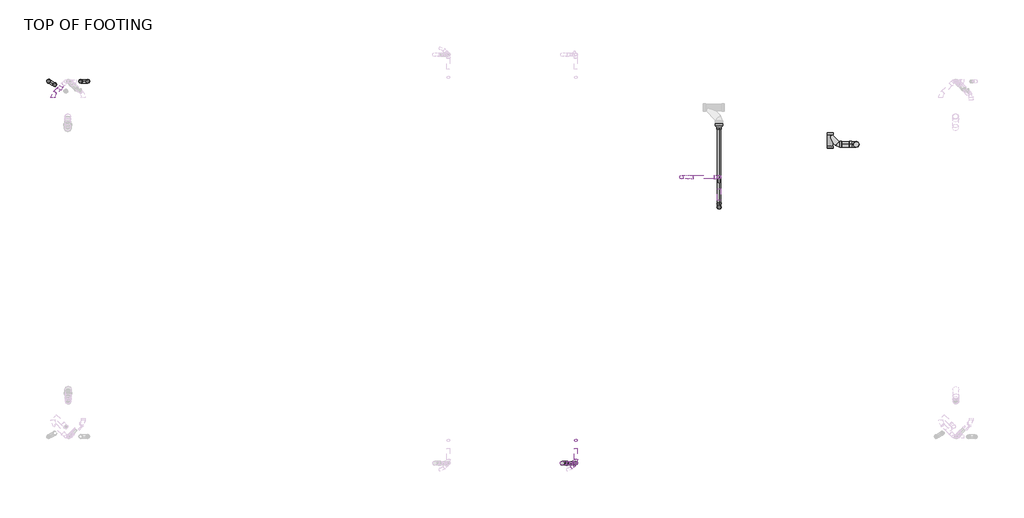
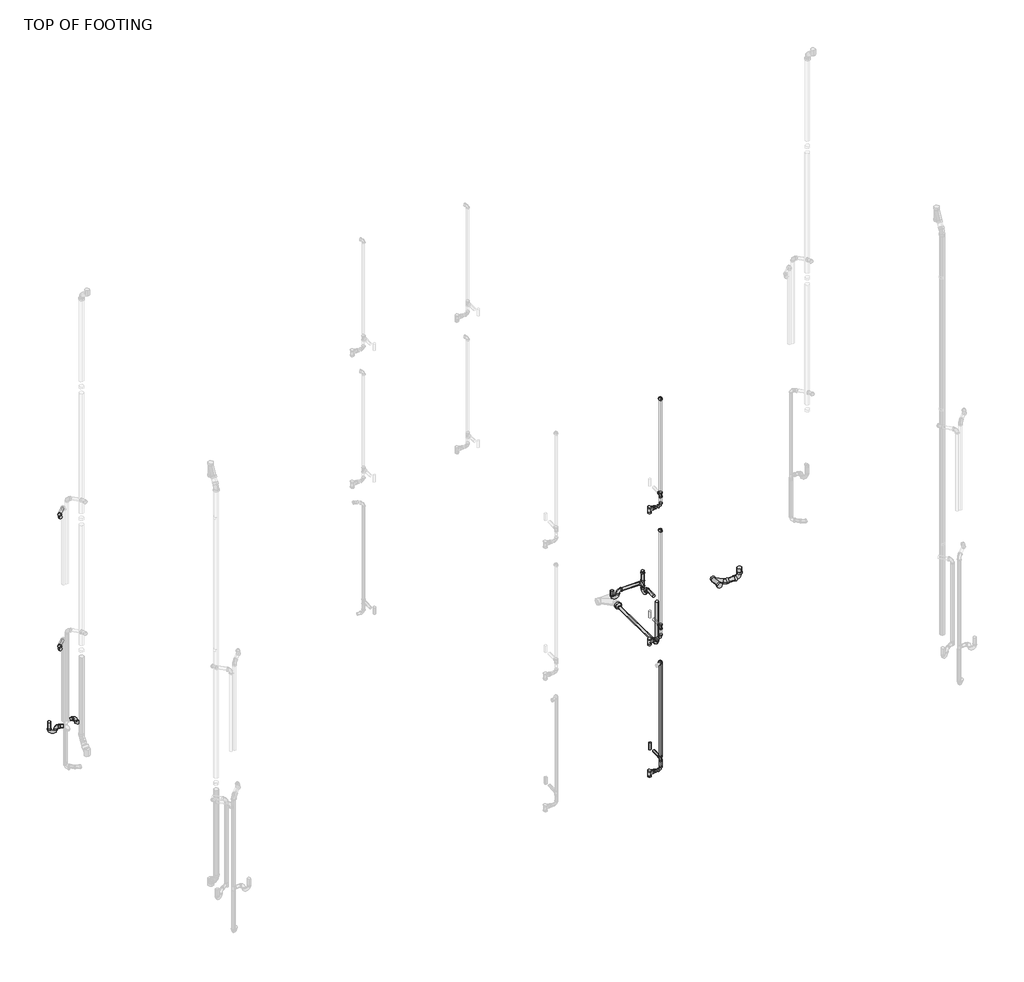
# One storey, part 4 of 8: 28 pipe segments, 27 pipe fittings.
"""IFC4 building model written with IfcOpenShell, lengths in millimetres."""

from ifc_helpers import new_model, si_unit, point, frame, frame_2d, origin, place, context, project, spatial, circle_curve, trimmed, segment, composite_curve, outline, extrude, transform, mapped, element, save
from components import bend_pvc_sch_40_dwv_standard_35af41d9, bend_pvc_sch_40_dwv_standard_e4da6302, bend_pvc_sch_40_dwv_standard_e287c2f6, bend_pvc_sch_40_dwv_standard_97be7f04, bend_pvc_sch_40_dwv_standard_f64d1520, reducer_pvc_sch_40_dwv_standard_b23fa098, reducer_pvc_sch_40_dwv_standard_30c8b44d, standard_73d07651, standard_8c31f35f, tee_sanitary_pvc_sch_40_dwv_standard_7b7ecc20, tee_sanitary_pvc_sch_40_dwv_standard_3578d342, tee_sanitary_pvc_sch_40_dwv_standard_32d7fc6d, wye_combination_with_8th_bend_pvc_sch_40_dwv_standard_399af0eb

model = new_model("IFC4")

# Units and contexts
model_context = context("Model", 3, world=origin())
ifc_project = project(units=[si_unit("LENGTHUNIT", "METRE", prefix="MILLI")], contexts=[model_context])

# Site, building, storey
site = spatial("IfcSite", under=ifc_project)
building = spatial("IfcBuilding", under=site)
storey = spatial("IfcBuildingStorey", under=building, Name="TOP OF FOOTING", Elevation=-762.0)

# Pipe fittings
placement = place(None, origin())
bend_pvc_sch_40_dwv_standard_shape = bend_pvc_sch_40_dwv_standard_35af41d9(model_context)
element("IfcPipeFitting", 1, ObjectType="Bend - PVC - Sch 40 - DWV : Standard", at=placement, inside=storey, context=model_context, shape_type="MappedRepresentation", body=[
    mapped(bend_pvc_sch_40_dwv_standard_shape, transform((10595.8959875, 2089.7012881, 337.3617935), x_axis=(0.0, 0.0, -1.0), y_axis=(1.0, 0.0, 0.0), z_axis=(0.0, -1.0, 0.0))),
])
element("IfcPipeFitting", 2, ObjectType="Bend - PVC - Sch 40 - DWV : Standard", at=placement, inside=storey, context=model_context, shape_type="MappedRepresentation", body=[
    mapped(bend_pvc_sch_40_dwv_standard_shape, transform((10595.8959875, 2089.7012881, 3182.1617935), x_axis=(0.0, 0.0, -1.0), y_axis=(1.0, 0.0, 0.0), z_axis=(0.0, -1.0, 0.0))),
])
element("IfcPipeFitting", 3, ObjectType="Bend - PVC - Sch 40 - DWV : Standard", at=placement, inside=storey, context=model_context, shape_type="MappedRepresentation", body=[
    mapped(bend_pvc_sch_40_dwv_standard_shape, transform((10595.8959875, 2089.7012881, 6026.9617935), x_axis=(0.0, 0.0, -1.0), y_axis=(1.0, 0.0, 0.0), z_axis=(0.0, -1.0, 0.0))),
])
bend_pvc_sch_40_dwv_standard_2_shape = bend_pvc_sch_40_dwv_standard_e4da6302(model_context)
element("IfcPipeFitting", 4, ObjectType="Bend - PVC - Sch 40 - DWV : Standard", at=placement, inside=storey, context=model_context, shape_type="MappedRepresentation", body=[
    mapped(bend_pvc_sch_40_dwv_standard_2_shape, transform((10595.9087024, 2089.6991493, 2682.6265087), x_axis=(0.0, 0.0, 1.0), y_axis=(0.7070876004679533, 0.7071259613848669, 0.0), z_axis=(-0.7071259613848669, 0.7070876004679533, 0.0))),
])
element("IfcPipeFitting", 5, ObjectType="Bend - PVC - Sch 40 - DWV : Standard", at=placement, inside=storey, context=model_context, shape_type="MappedRepresentation", body=[
    mapped(bend_pvc_sch_40_dwv_standard_2_shape, transform((10595.9087024, 2089.6991493, 5527.4265087), x_axis=(0.0, 0.0, 1.0), y_axis=(0.7070876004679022, 0.7071259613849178, 0.0), z_axis=(-0.7071259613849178, 0.7070876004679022, 0.0))),
])
element("IfcPipeFitting", 6, ObjectType="Bend - PVC - Sch 40 - DWV : Standard", at=placement, inside=storey, context=model_context, shape_type="MappedRepresentation", body=[
    mapped(bend_pvc_sch_40_dwv_standard_2_shape, transform((10595.9052501, 2089.699846, 8371.9619664), x_axis=(0.0, 0.0, 1.0), y_axis=(0.7070876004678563, 0.7071259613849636, 0.0), z_axis=(-0.7071259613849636, 0.7070876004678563, 0.0))),
])
bend_pvc_sch_40_dwv_standard_3_shape = bend_pvc_sch_40_dwv_standard_e287c2f6(model_context)
element("IfcPipeFitting", 7, ObjectType="Bend - PVC - Sch 40 - DWV : Standard", at=placement, inside=storey, context=model_context, shape_type="MappedRepresentation", body=[
    mapped(bend_pvc_sch_40_dwv_standard_3_shape, transform((12986.8605561, 6363.5349604, -383.9365912), x_axis=(0.0, 0.0, -1.0), y_axis=(0.0, 1.0, 0.0), z_axis=(1.0, 0.0, 0.0))),
])
bend_pvc_sch_40_dwv_standard_4_shape = bend_pvc_sch_40_dwv_standard_97be7f04(model_context)
element("IfcPipeFitting", 8, ObjectType="Bend - PVC - Sch 40 - DWV : Standard", at=placement, inside=storey, context=model_context, shape_type="MappedRepresentation", body=[
    mapped(bend_pvc_sch_40_dwv_standard_4_shape, transform((15278.045903, 7411.3058053, -374.3504732), x_axis=(0.0, 0.0, -1.0), y_axis=(-1.0, 0.0, 0.0), z_axis=(0.0, 1.0, 0.0))),
])
bend_pvc_sch_40_dwv_standard_5_shape = bend_pvc_sch_40_dwv_standard_f64d1520(model_context)
element("IfcPipeFitting", 9, ObjectType="Bend - PVC - Sch 40 - DWV : Standard", at=placement, inside=storey, context=model_context, shape_type="MappedRepresentation", body=[
    mapped(bend_pvc_sch_40_dwv_standard_5_shape, transform((1864.3084875, 8244.2717925, 5130.7957104), x_axis=(0.0, 0.9999999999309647, -1.1750347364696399e-05), y_axis=(-0.9999999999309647, 1.3807066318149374e-10, 1.175034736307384e-05), z_axis=(1.1750347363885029e-05, 1.175034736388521e-05, 0.9999999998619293))),
])
element("IfcPipeFitting", 10, ObjectType="Bend - PVC - Sch 40 - DWV : Standard", at=placement, inside=storey, context=model_context, shape_type="MappedRepresentation", body=[
    mapped(bend_pvc_sch_40_dwv_standard_5_shape, transform((1864.3084875, 8244.2717925, 2285.9957104), x_axis=(0.0, 0.9999999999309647, -1.1750347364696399e-05), y_axis=(-0.9999999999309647, 1.3807066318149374e-10, 1.175034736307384e-05), z_axis=(1.1750347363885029e-05, 1.175034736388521e-05, 0.9999999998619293))),
])
reducer_pvc_sch_40_dwv_standard_shape = reducer_pvc_sch_40_dwv_standard_b23fa098(model_context)
element("IfcPipeFitting", 11, ObjectType="Reducer - PVC - Sch 40 - DWV : Standard", at=placement, inside=storey, context=model_context, shape_type="MappedRepresentation", body=[
    mapped(reducer_pvc_sch_40_dwv_standard_shape, transform((10445.040475, 2089.7012881, 337.3617935), x_axis=(1.0, 0.0, 0.0), y_axis=(0.0, 1.0, 0.0), z_axis=(0.0, 0.0, 1.0))),
])
element("IfcPipeFitting", 12, ObjectType="Reducer - PVC - Sch 40 - DWV : Standard", at=placement, inside=storey, context=model_context, shape_type="MappedRepresentation", body=[
    mapped(reducer_pvc_sch_40_dwv_standard_shape, transform((10445.040475, 2089.7012881, 3182.1617935), x_axis=(1.0, 0.0, 0.0), y_axis=(0.0, 1.0, 0.0), z_axis=(0.0, 0.0, 1.0))),
])
element("IfcPipeFitting", 13, ObjectType="Reducer - PVC - Sch 40 - DWV : Standard", at=placement, inside=storey, context=model_context, shape_type="MappedRepresentation", body=[
    mapped(reducer_pvc_sch_40_dwv_standard_shape, transform((10445.040475, 2089.7012881, 6026.9617935), x_axis=(1.0, 0.0, 0.0), y_axis=(0.0, 1.0, 0.0), z_axis=(0.0, 0.0, 1.0))),
])
element("IfcPipeFitting", 14, ObjectType="Reducer - PVC - Sch 40 - DWV : Standard", at=placement, inside=storey, context=model_context, shape_type="MappedRepresentation", body=[
    mapped(reducer_pvc_sch_40_dwv_standard_shape, transform((12986.8789069, 6866.8137881, 836.6471683), x_axis=(0.0, 0.0, 1.0), y_axis=(0.0, 1.0, 0.0), z_axis=(-1.0, 0.0, 0.0))),
])
reducer_pvc_sch_40_dwv_standard_2_shape = reducer_pvc_sch_40_dwv_standard_30c8b44d(model_context)
element("IfcPipeFitting", 15, ObjectType="Reducer - PVC - Sch 40 - DWV : Standard", at=placement, inside=storey, context=model_context, shape_type="MappedRepresentation", body=[
    mapped(reducer_pvc_sch_40_dwv_standard_2_shape, transform((12986.8605561, 7764.8319436, -395.4796636), x_axis=(0.0, -0.9999457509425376, 0.010416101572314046), y_axis=(0.9999457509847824, 0.00010849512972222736, 0.01041553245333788), z_axis=(-0.010416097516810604, 0.01041553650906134, 0.9998915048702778))),
])
standard_shape = standard_73d07651(model_context)
element("IfcPipeFitting", 16, ObjectType="GES P TRAP PVC Sch 40 - DWV : Standard", at=placement, inside=storey, context=model_context, shape_type="MappedRepresentation", body=[
    mapped(standard_shape, transform((2442.6720106, 8465.2710421, 477.8721683), x_axis=(0.0, 0.0, -1.0), y_axis=(-1.0, 0.0, 0.0), z_axis=(0.0, 1.0, 0.0))),
])
element("IfcPipeFitting", 17, ObjectType="GES P TRAP PVC Sch 40 - DWV : Standard", at=placement, inside=storey, context=model_context, shape_type="MappedRepresentation", body=[
    mapped(standard_shape, transform((12986.8789069, 6866.8137881, 574.0663236), x_axis=(0.0, 0.0, -1.0), y_axis=(0.0, -1.0, 0.0), z_axis=(-1.0, 0.0, 0.0))),
])
element("IfcPipeFitting", 18, ObjectType="GES P TRAP PVC Sch 40 - DWV : Standard", at=placement, inside=storey, context=model_context, shape_type="MappedRepresentation", body=[
    mapped(standard_shape, transform((12362.0084875, 6866.8137881, 634.9796463), x_axis=(0.0, 0.0, -1.0), y_axis=(1.0, 0.0, 0.0), z_axis=(0.0, -1.0, 0.0))),
])
standard_2_shape = standard_8c31f35f(model_context)
element("IfcPipeFitting", 19, ObjectType="GES P TRAP PVC Sch 40 - DWV : Standard", at=placement, inside=storey, context=model_context, shape_type="MappedRepresentation", body=[
    mapped(standard_2_shape, transform((1791.2077186, 8467.0137881, 477.8721683), x_axis=(0.0, 0.0, -1.0), y_axis=(-0.8674784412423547, 0.4974747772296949, 0.0), z_axis=(0.4974747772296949, 0.8674784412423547, 0.0))),
])
tee_sanitary_pvc_sch_40_dwv_standard_shape = tee_sanitary_pvc_sch_40_dwv_standard_7b7ecc20(model_context)
element("IfcPipeFitting", 20, ObjectType="Tee Sanitary - PVC - Sch 40 - DWV : Standard", at=placement, inside=storey, context=model_context, shape_type="MappedRepresentation", body=[
    mapped(tee_sanitary_pvc_sch_40_dwv_standard_shape, transform((12986.8789069, 6866.8137881, 634.9796463), x_axis=(0.0, 0.0, 1.0), y_axis=(1.0, 0.0, 0.0), z_axis=(0.0, 1.0, 0.0))),
])
tee_sanitary_pvc_sch_40_dwv_standard_2_shape = tee_sanitary_pvc_sch_40_dwv_standard_3578d342(model_context)
element("IfcPipeFitting", 21, ObjectType="Tee Sanitary - PVC - Sch 40 - DWV : Standard", at=placement, inside=storey, context=model_context, shape_type="MappedRepresentation", body=[
    mapped(tee_sanitary_pvc_sch_40_dwv_standard_2_shape, transform((10595.8959875, 2089.7012881, 6267.6170389), x_axis=(0.0, 0.0, 1.0), y_axis=(0.0, 1.0, 0.0), z_axis=(-1.0, 0.0, 0.0))),
])
element("IfcPipeFitting", 22, ObjectType="Tee Sanitary - PVC - Sch 40 - DWV : Standard", at=placement, inside=storey, context=model_context, shape_type="MappedRepresentation", body=[
    mapped(tee_sanitary_pvc_sch_40_dwv_standard_2_shape, transform((10595.8959875, 2089.7012881, 3422.8170389), x_axis=(0.0, 0.0, 1.0), y_axis=(0.0, 1.0, 0.0), z_axis=(-1.0, 0.0, 0.0))),
])
element("IfcPipeFitting", 23, ObjectType="Tee Sanitary - PVC - Sch 40 - DWV : Standard", at=placement, inside=storey, context=model_context, shape_type="MappedRepresentation", body=[
    mapped(tee_sanitary_pvc_sch_40_dwv_standard_2_shape, transform((10595.8959875, 2089.7012881, 578.0170389), x_axis=(0.0, 0.0, 1.0), y_axis=(0.0, 1.0, 0.0), z_axis=(-1.0, 0.0, 0.0))),
])
tee_sanitary_pvc_sch_40_dwv_standard_3_shape = tee_sanitary_pvc_sch_40_dwv_standard_32d7fc6d(model_context)
element("IfcPipeFitting", 24, ObjectType="Tee Sanitary - PVC - Sch 40 - DWV : Standard", at=placement, inside=storey, context=model_context, shape_type="MappedRepresentation", body=[
    mapped(tee_sanitary_pvc_sch_40_dwv_standard_3_shape, transform((10366.9918451, 2089.8953901, 337.3617935), x_axis=(0.0, 0.0, 1.0), y_axis=(1.0, 0.0, 0.0), z_axis=(0.0, 1.0, 0.0))),
])
element("IfcPipeFitting", 25, ObjectType="Tee Sanitary - PVC - Sch 40 - DWV : Standard", at=placement, inside=storey, context=model_context, shape_type="MappedRepresentation", body=[
    mapped(tee_sanitary_pvc_sch_40_dwv_standard_3_shape, transform((10366.9918451, 2089.8953901, 3182.1617935), x_axis=(0.0, 0.0, 1.0), y_axis=(1.0, 0.0, 0.0), z_axis=(0.0, 1.0, 0.0))),
])
element("IfcPipeFitting", 26, ObjectType="Tee Sanitary - PVC - Sch 40 - DWV : Standard", at=placement, inside=storey, context=model_context, shape_type="MappedRepresentation", body=[
    mapped(tee_sanitary_pvc_sch_40_dwv_standard_3_shape, transform((10366.9918451, 2089.8953901, 6026.9617935), x_axis=(0.0, 0.0, 1.0), y_axis=(1.0, 0.0, 0.0), z_axis=(0.0, 1.0, 0.0))),
])
wye_combination_with_8th_bend_pvc_sch_40_dwv_standard_shape = wye_combination_with_8th_bend_pvc_sch_40_dwv_standard_399af0eb(model_context)
element("IfcPipeFitting", 27, ObjectType="Wye Combination with 8th Bend - PVC - Sch 40 - DWV : Standard", at=placement, inside=storey, context=model_context, shape_type="MappedRepresentation", body=[
    mapped(wye_combination_with_8th_bend_pvc_sch_40_dwv_standard_shape, transform((14840.6889125, 7411.3058053, -377.9447296), x_axis=(0.0, -0.9999987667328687, 0.001570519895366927), y_axis=(-0.999966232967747, -1.2906284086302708e-05, -0.008217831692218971), z_axis=(0.008217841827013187, -0.001570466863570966, -0.9999649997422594))),
])

# Pipe segments
element("IfcPipeSegment", 28, ObjectType="PVC - SAN/STORM", at=placement, inside=storey, context=model_context, shape_type="SweptSolid", body=[
    extrude(outline(composite_curve([segment(trimmed(circle_curve(frame_2d((10595.8959875, 2089.7012881)), 24.13), [point((10620.0259875, 2089.7012881))], [point((10595.8959875, 2065.5712881))], False, "CARTESIAN"), True, "CONTINUOUS"), segment(trimmed(circle_curve(frame_2d((10595.8959875, 2089.7012881)), 24.13), [point((10595.8959875, 2065.5712881))], [point((10571.7659875, 2089.7012881))], False, "CARTESIAN"), True, "CONTINUOUS"), segment(trimmed(circle_curve(frame_2d((10595.8959875, 2089.7012881)), 24.13), [point((10571.7659875, 2089.7012881))], [point((10595.8959875, 2113.8312881))], False, "CARTESIAN"), True, "CONTINUOUS"), segment(trimmed(circle_curve(frame_2d((10595.8959875, 2089.7012881)), 24.13), [point((10595.8959875, 2113.8312881))], [point((10620.0259875, 2089.7012881))], False, "CARTESIAN"), True, "CONTINUOUS")], self_intersect=False)), frame((0.0, 0.0, 6088.8615935), z_axis=(0.0, 0.0, 1.0), x_axis=(1.0, 0.0, 0.0)), (0.0, 0.0, 1.0), 116.8556454),
])
element("IfcPipeSegment", 29, ObjectType="PVC - SAN/STORM", at=placement, inside=storey, context=model_context, shape_type="SweptSolid", body=[
    extrude(outline(composite_curve([segment(trimmed(circle_curve(frame_2d((0.0, 24.13)), 24.13), [point((-24.13, 24.13))], [point((0.0, 48.26))], False, "CARTESIAN"), True, "CONTINUOUS"), segment(trimmed(circle_curve(frame_2d((0.0, 24.13)), 24.13), [point((0.0, 48.26))], [point((24.13, 24.13))], False, "CARTESIAN"), True, "CONTINUOUS"), segment(trimmed(circle_curve(frame_2d((0.0, 24.13)), 24.13), [point((24.13, 24.13))], [point((0.0, 0.0))], False, "CARTESIAN"), True, "CONTINUOUS"), segment(trimmed(circle_curve(frame_2d((0.0, 24.13)), 24.13), [point((0.0, 0.0))], [point((-24.13, 24.13))], False, "CARTESIAN"), True, "CONTINUOUS")], self_intersect=False)), frame((10595.8959875, 2065.5712881, 6313.8111829), z_axis=(4.640019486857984e-06, -7.223967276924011e-07, 0.9999999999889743), x_axis=(0.9999999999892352, 3.3519853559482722e-12, -4.640019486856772e-06)), (0.0, 0.0, 1.0), 1996.2509661),
])
element("IfcPipeSegment", 30, ObjectType="PVC - SAN/STORM", at=placement, inside=storey, context=model_context, shape_type="SweptSolid", body=[
    extrude(outline(composite_curve([segment(trimmed(circle_curve(frame_2d((0.0, -24.13)), 24.13), [point((-24.13, -24.13))], [point((0.0, 0.0))], False, "CARTESIAN"), True, "CONTINUOUS"), segment(trimmed(circle_curve(frame_2d((0.0, -24.13)), 24.13), [point((0.0, 0.0))], [point((24.13, -24.13))], False, "CARTESIAN"), True, "CONTINUOUS"), segment(trimmed(circle_curve(frame_2d((0.0, -24.13)), 24.13), [point((24.13, -24.13))], [point((0.0, -48.2600001))], False, "CARTESIAN"), True, "CONTINUOUS"), segment(trimmed(circle_curve(frame_2d((0.0, -24.13)), 24.13), [point((0.0, -48.2600001))], [point((-24.13, -24.13))], False, "CARTESIAN"), True, "CONTINUOUS")], self_intersect=False)), frame((10595.8959875, 2151.8490706, 3399.3331025), z_axis=(0.0, 0.9999457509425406, 0.01041610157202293), x_axis=(1.0, 0.0, 0.0)), (0.0, 0.0, 1.0), 182.6011639),
])
element("IfcPipeSegment", 31, ObjectType="PVC - SAN/STORM", at=placement, inside=storey, context=model_context, shape_type="SweptSolid", body=[
    extrude(outline(composite_curve([segment(trimmed(circle_curve(frame_2d((10595.8959875, 2469.1137881)), 24.13), [point((10571.7659875, 2469.1137881))], [point((10595.8959875, 2493.2437881))], False, "CARTESIAN"), True, "CONTINUOUS"), segment(trimmed(circle_curve(frame_2d((10595.8959875, 2469.1137881)), 24.13), [point((10595.8959875, 2493.2437881))], [point((10620.0259875, 2469.1137881))], False, "CARTESIAN"), True, "CONTINUOUS"), segment(trimmed(circle_curve(frame_2d((10595.8959875, 2469.1137881)), 24.13), [point((10620.0259875, 2469.1137881))], [point((10595.8959875, 2444.9837881))], False, "CARTESIAN"), True, "CONTINUOUS"), segment(trimmed(circle_curve(frame_2d((10595.8959875, 2469.1137881)), 24.13), [point((10595.8959875, 2444.9837881))], [point((10571.7659875, 2469.1137881))], False, "CARTESIAN"), True, "CONTINUOUS")], self_intersect=False)), frame((0.0, 0.0, 3380.9010858), z_axis=(0.0, 0.0, 1.0), x_axis=(1.0, 0.0, 0.0)), (0.0, 0.0, 1.0), 139.7),
])
element("IfcPipeSegment", 32, ObjectType="PVC - SAN/STORM", at=placement, inside=storey, context=model_context, shape_type="SweptSolid", body=[
    extrude(outline(composite_curve([segment(trimmed(circle_curve(frame_2d((2089.7012881, 3182.1617935)), 24.13), [point((2113.8312881, 3182.1617935))], [point((2089.7012881, 3158.0317935))], False, "CARTESIAN"), True, "CONTINUOUS"), segment(trimmed(circle_curve(frame_2d((2089.7012881, 3182.1617935)), 24.13), [point((2089.7012881, 3158.0317935))], [point((2065.5712881, 3182.1617935))], False, "CARTESIAN"), True, "CONTINUOUS"), segment(trimmed(circle_curve(frame_2d((2089.7012881, 3182.1617935)), 24.13), [point((2065.5712881, 3182.1617935))], [point((2089.7012881, 3206.2917935))], False, "CARTESIAN"), True, "CONTINUOUS"), segment(trimmed(circle_curve(frame_2d((2089.7012881, 3182.1617935)), 24.13), [point((2089.7012881, 3206.2917935))], [point((2113.8312881, 3182.1617935))], False, "CARTESIAN"), True, "CONTINUOUS")], self_intersect=False)), frame((10495.027675, 0.0, 0.0), z_axis=(1.0, 0.0, 0.0), x_axis=(0.0, 1.0, 0.0)), (0.0, 0.0, 1.0), 38.9685125),
])
element("IfcPipeSegment", 33, ObjectType="PVC - SAN/STORM", at=placement, inside=storey, context=model_context, shape_type="SweptSolid", body=[
    extrude(outline(composite_curve([segment(trimmed(circle_curve(frame_2d((10595.8959875, 2089.7012881)), 24.13), [point((10620.0259875, 2089.7012881))], [point((10595.8959875, 2065.5712881))], False, "CARTESIAN"), True, "CONTINUOUS"), segment(trimmed(circle_curve(frame_2d((10595.8959875, 2089.7012881)), 24.13), [point((10595.8959875, 2065.5712881))], [point((10571.7659875, 2089.7012881))], False, "CARTESIAN"), True, "CONTINUOUS"), segment(trimmed(circle_curve(frame_2d((10595.8959875, 2089.7012881)), 24.13), [point((10571.7659875, 2089.7012881))], [point((10595.8959875, 2113.8312881))], False, "CARTESIAN"), True, "CONTINUOUS"), segment(trimmed(circle_curve(frame_2d((10595.8959875, 2089.7012881)), 24.13), [point((10595.8959875, 2113.8312881))], [point((10620.0259875, 2089.7012881))], False, "CARTESIAN"), True, "CONTINUOUS")], self_intersect=False)), frame((0.0, 0.0, 3244.0615935), z_axis=(0.0, 0.0, 1.0), x_axis=(1.0, 0.0, 0.0)), (0.0, 0.0, 1.0), 116.8556454),
])
element("IfcPipeSegment", 34, ObjectType="PVC - SAN/STORM", at=placement, inside=storey, context=model_context, shape_type="SweptSolid", body=[
    extrude(outline(composite_curve([segment(trimmed(circle_curve(frame_2d((0.0, 24.13)), 24.13), [point((-24.13, 24.13))], [point((0.0, 48.26))], False, "CARTESIAN"), True, "CONTINUOUS"), segment(trimmed(circle_curve(frame_2d((0.0, 24.13)), 24.13), [point((0.0, 48.26))], [point((24.13, 24.13))], False, "CARTESIAN"), True, "CONTINUOUS"), segment(trimmed(circle_curve(frame_2d((0.0, 24.13)), 24.13), [point((24.13, 24.13))], [point((0.0, 0.0))], False, "CARTESIAN"), True, "CONTINUOUS"), segment(trimmed(circle_curve(frame_2d((0.0, 24.13)), 24.13), [point((0.0, 0.0))], [point((-24.13, 24.13))], False, "CARTESIAN"), True, "CONTINUOUS")], self_intersect=False)), frame((10595.8959875, 2065.5712881, 3469.0111745), z_axis=(6.368583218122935e-06, -1.0712312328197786e-06, 0.9999999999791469), x_axis=(0.9999999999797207, 6.822098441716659e-12, -6.368583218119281e-06)), (0.0, 0.0, 1.0), 1996.5155084),
])
element("IfcPipeSegment", 35, ObjectType="PVC - SAN/STORM", at=placement, inside=storey, context=model_context, shape_type="SweptSolid", body=[
    extrude(outline(composite_curve([segment(trimmed(circle_curve(frame_2d((0.0, -24.13)), 24.13), [point((-24.13, -24.13))], [point((0.0, 0.0))], False, "CARTESIAN"), True, "CONTINUOUS"), segment(trimmed(circle_curve(frame_2d((0.0, -24.13)), 24.13), [point((0.0, 0.0))], [point((24.13, -24.13))], False, "CARTESIAN"), True, "CONTINUOUS"), segment(trimmed(circle_curve(frame_2d((0.0, -24.13)), 24.13), [point((24.13, -24.13))], [point((0.0, -48.2600001))], False, "CARTESIAN"), True, "CONTINUOUS"), segment(trimmed(circle_curve(frame_2d((0.0, -24.13)), 24.13), [point((0.0, -48.2600001))], [point((-24.13, -24.13))], False, "CARTESIAN"), True, "CONTINUOUS")], self_intersect=False)), frame((10595.8959875, 2151.8490706, 554.5331025), z_axis=(0.0, 0.9999457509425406, 0.010416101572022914), x_axis=(1.0, 0.0, 0.0)), (0.0, 0.0, 1.0), 182.6011639),
])
element("IfcPipeSegment", 36, ObjectType="PVC - SAN/STORM", at=placement, inside=storey, context=model_context, shape_type="SweptSolid", body=[
    extrude(outline(composite_curve([segment(trimmed(circle_curve(frame_2d((10595.8959875, 2469.1137881)), 24.13), [point((10571.7659875, 2469.1137881))], [point((10595.8959875, 2493.2437881))], False, "CARTESIAN"), True, "CONTINUOUS"), segment(trimmed(circle_curve(frame_2d((10595.8959875, 2469.1137881)), 24.13), [point((10595.8959875, 2493.2437881))], [point((10620.0259875, 2469.1137881))], False, "CARTESIAN"), True, "CONTINUOUS"), segment(trimmed(circle_curve(frame_2d((10595.8959875, 2469.1137881)), 24.13), [point((10620.0259875, 2469.1137881))], [point((10595.8959875, 2444.9837881))], False, "CARTESIAN"), True, "CONTINUOUS"), segment(trimmed(circle_curve(frame_2d((10595.8959875, 2469.1137881)), 24.13), [point((10595.8959875, 2444.9837881))], [point((10571.7659875, 2469.1137881))], False, "CARTESIAN"), True, "CONTINUOUS")], self_intersect=False)), frame((0.0, 0.0, 536.1010858), z_axis=(0.0, 0.0, 1.0), x_axis=(1.0, 0.0, 0.0)), (0.0, 0.0, 1.0), 139.7),
])
element("IfcPipeSegment", 37, ObjectType="PVC - SAN/STORM", at=placement, inside=storey, context=model_context, shape_type="SweptSolid", body=[
    extrude(outline(composite_curve([segment(trimmed(circle_curve(frame_2d((2089.7012881, 337.3617935)), 24.13), [point((2113.8312881, 337.3617935))], [point((2089.7012881, 313.2317935))], False, "CARTESIAN"), True, "CONTINUOUS"), segment(trimmed(circle_curve(frame_2d((2089.7012881, 337.3617935)), 24.13), [point((2089.7012881, 313.2317935))], [point((2065.5712881, 337.3617935))], False, "CARTESIAN"), True, "CONTINUOUS"), segment(trimmed(circle_curve(frame_2d((2089.7012881, 337.3617935)), 24.13), [point((2065.5712881, 337.3617935))], [point((2089.7012881, 361.4917935))], False, "CARTESIAN"), True, "CONTINUOUS"), segment(trimmed(circle_curve(frame_2d((2089.7012881, 337.3617935)), 24.13), [point((2089.7012881, 361.4917935))], [point((2113.8312881, 337.3617935))], False, "CARTESIAN"), True, "CONTINUOUS")], self_intersect=False)), frame((10495.027675, 0.0, 0.0), z_axis=(1.0, 0.0, 0.0), x_axis=(0.0, 1.0, 0.0)), (0.0, 0.0, 1.0), 38.9685125),
])
element("IfcPipeSegment", 38, ObjectType="PVC - SAN/STORM", at=placement, inside=storey, context=model_context, shape_type="SweptSolid", body=[
    extrude(outline(composite_curve([segment(trimmed(circle_curve(frame_2d((10595.8959875, 2089.7012881)), 24.13), [point((10620.0259875, 2089.7012881))], [point((10595.8959875, 2065.5712881))], False, "CARTESIAN"), True, "CONTINUOUS"), segment(trimmed(circle_curve(frame_2d((10595.8959875, 2089.7012881)), 24.13), [point((10595.8959875, 2065.5712881))], [point((10571.7659875, 2089.7012881))], False, "CARTESIAN"), True, "CONTINUOUS"), segment(trimmed(circle_curve(frame_2d((10595.8959875, 2089.7012881)), 24.13), [point((10571.7659875, 2089.7012881))], [point((10595.8959875, 2113.8312881))], False, "CARTESIAN"), True, "CONTINUOUS"), segment(trimmed(circle_curve(frame_2d((10595.8959875, 2089.7012881)), 24.13), [point((10595.8959875, 2113.8312881))], [point((10620.0259875, 2089.7012881))], False, "CARTESIAN"), True, "CONTINUOUS")], self_intersect=False)), frame((0.0, 0.0, 399.2615935), z_axis=(0.0, 0.0, 1.0), x_axis=(1.0, 0.0, 0.0)), (0.0, 0.0, 1.0), 116.8556454),
])
element("IfcPipeSegment", 39, ObjectType="PVC - SAN/STORM", at=placement, inside=storey, context=model_context, shape_type="SweptSolid", body=[
    extrude(outline(composite_curve([segment(trimmed(circle_curve(frame_2d((0.0, 24.13)), 24.13), [point((-24.13, 24.13))], [point((0.0, 48.26))], False, "CARTESIAN"), True, "CONTINUOUS"), segment(trimmed(circle_curve(frame_2d((0.0, 24.13)), 24.13), [point((0.0, 48.26))], [point((24.13, 24.13))], False, "CARTESIAN"), True, "CONTINUOUS"), segment(trimmed(circle_curve(frame_2d((0.0, 24.13)), 24.13), [point((24.13, 24.13))], [point((0.0, 0.0))], False, "CARTESIAN"), True, "CONTINUOUS"), segment(trimmed(circle_curve(frame_2d((0.0, 24.13)), 24.13), [point((0.0, 0.0))], [point((-24.13, 24.13))], False, "CARTESIAN"), True, "CONTINUOUS")], self_intersect=False)), frame((10595.8959875, 2065.5712881, 624.2111745), z_axis=(6.3685832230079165e-06, -1.0712312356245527e-06, 0.9999999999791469), x_axis=(0.9999999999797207, 6.822098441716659e-12, -6.368583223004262e-06)), (0.0, 0.0, 1.0), 1996.5155084),
])
element("IfcPipeSegment", 40, ObjectType="PVC - SAN/STORM", at=placement, inside=storey, context=model_context, shape_type="SweptSolid", body=[
    extrude(outline(composite_curve([segment(trimmed(circle_curve(frame_2d((0.0, 24.1300001)), 24.13), [point((-24.1293456, 24.3077102))], [point((0.1777101, 48.2593457))], False, "CARTESIAN"), True, "CONTINUOUS"), segment(trimmed(circle_curve(frame_2d((0.0, 24.1300001)), 24.13), [point((0.1777101, 48.2593457))], [point((24.1293456, 23.95229))], False, "CARTESIAN"), True, "CONTINUOUS"), segment(trimmed(circle_curve(frame_2d((0.0, 24.1300001)), 24.13), [point((24.1293456, 23.95229))], [point((-0.1777101, 0.0006545))], False, "CARTESIAN"), True, "CONTINUOUS"), segment(trimmed(circle_curve(frame_2d((0.0, 24.1300001)), 24.13), [point((-0.1777101, 0.0006545))], [point((-24.1293456, 24.3077102))], False, "CARTESIAN"), True, "CONTINUOUS")], self_intersect=False)), frame((10552.1413086, 2045.6780541, 2658.9537279), z_axis=(-0.7070684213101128, -0.7071067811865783, 0.007365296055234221), x_axis=(0.707145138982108, -0.7070300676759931, 0.007364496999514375)), (0.0, 0.0, 1.0), 44.4784246),
])
element("IfcPipeSegment", 41, ObjectType="PVC - SAN/STORM", at=placement, inside=storey, context=model_context, shape_type="SweptSolid", body=[
    extrude(outline(composite_curve([segment(trimmed(circle_curve(frame_2d((8465.2710421, 477.8721683)), 30.1625), [point((8495.4335421, 477.8721683))], [point((8465.2710421, 447.7096683))], False, "CARTESIAN"), True, "CONTINUOUS"), segment(trimmed(circle_curve(frame_2d((8465.2710421, 477.8721683)), 30.1625), [point((8465.2710421, 447.7096683))], [point((8435.1085421, 477.8721683))], False, "CARTESIAN"), True, "CONTINUOUS"), segment(trimmed(circle_curve(frame_2d((8465.2710421, 477.8721683)), 30.1625), [point((8435.1085421, 477.8721683))], [point((8465.2710421, 508.0346683))], False, "CARTESIAN"), True, "CONTINUOUS"), segment(trimmed(circle_curve(frame_2d((8465.2710421, 477.8721683)), 30.1625), [point((8465.2710421, 508.0346683))], [point((8495.4335421, 477.8721683))], False, "CARTESIAN"), True, "CONTINUOUS")], self_intersect=False)), frame((2200.6557052, 0.0, 0.0), z_axis=(1.0, 0.0, 0.0), x_axis=(0.0, 1.0, 0.0)), (0.0, 0.0, 1.0), 49.9288054),
])
element("IfcPipeSegment", 42, ObjectType="PVC - SAN/STORM", at=placement, inside=storey, context=model_context, shape_type="SweptSolid", body=[
    extrude(outline(composite_curve([segment(trimmed(circle_curve(frame_2d((2442.6720106, 8465.2710421)), 30.1625), [point((2412.5095106, 8465.2710421))], [point((2442.6720106, 8495.4335421))], False, "CARTESIAN"), True, "CONTINUOUS"), segment(trimmed(circle_curve(frame_2d((2442.6720106, 8465.2710421)), 30.1625), [point((2442.6720106, 8495.4335421))], [point((2472.8345106, 8465.2710421))], False, "CARTESIAN"), True, "CONTINUOUS"), segment(trimmed(circle_curve(frame_2d((2442.6720106, 8465.2710421)), 30.1625), [point((2472.8345106, 8465.2710421))], [point((2442.6720106, 8435.1085421))], False, "CARTESIAN"), True, "CONTINUOUS"), segment(trimmed(circle_curve(frame_2d((2442.6720106, 8465.2710421)), 30.1625), [point((2442.6720106, 8435.1085421))], [point((2412.5095106, 8465.2710421))], False, "CARTESIAN"), True, "CONTINUOUS")], self_intersect=False)), frame((0.0, 0.0, 430.2471683), z_axis=(0.0, 0.0, 1.0), x_axis=(1.0, 0.0, 0.0)), (0.0, 0.0, 1.0), 143.9539175),
])
element("IfcPipeSegment", 43, ObjectType="PVC - SAN/STORM", at=placement, inside=storey, context=model_context, shape_type="SweptSolid", body=[
    extrude(outline(composite_curve([segment(trimmed(circle_curve(frame_2d((0.0, -30.1625)), 30.1625), [point((-30.1625, -30.1625))], [point((0.0, 0.0))], False, "CARTESIAN"), True, "CONTINUOUS"), segment(trimmed(circle_curve(frame_2d((0.0, -30.1625)), 30.1625), [point((0.0, 0.0))], [point((30.1625, -30.1625))], False, "CARTESIAN"), True, "CONTINUOUS"), segment(trimmed(circle_curve(frame_2d((0.0, -30.1625)), 30.1625), [point((30.1625, -30.1625))], [point((0.0, -60.325))], False, "CARTESIAN"), True, "CONTINUOUS"), segment(trimmed(circle_curve(frame_2d((0.0, -30.1625)), 30.1625), [point((0.0, -60.325))], [point((-30.1625, -30.1625))], False, "CARTESIAN"), True, "CONTINUOUS")], self_intersect=False)), frame((2012.2877648, 8339.8883099, 447.7084348), z_axis=(-0.8674784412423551, 0.49747477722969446, 0.0), x_axis=(0.49747477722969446, 0.8674784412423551, 0.0)), (0.0, 0.0, 1.0), 62.9363928),
])
element("IfcPipeSegment", 44, ObjectType="PVC - SAN/STORM", at=placement, inside=storey, context=model_context, shape_type="SweptSolid", body=[
    extrude(outline(composite_curve([segment(trimmed(circle_curve(frame_2d((1791.2077186, 8467.0137881)), 30.1625), [point((1761.0452186, 8467.0137881))], [point((1791.2077186, 8497.1762881))], False, "CARTESIAN"), True, "CONTINUOUS"), segment(trimmed(circle_curve(frame_2d((1791.2077186, 8467.0137881)), 30.1625), [point((1791.2077186, 8497.1762881))], [point((1821.3702186, 8467.0137881))], False, "CARTESIAN"), True, "CONTINUOUS"), segment(trimmed(circle_curve(frame_2d((1791.2077186, 8467.0137881)), 30.1625), [point((1821.3702186, 8467.0137881))], [point((1791.2077186, 8436.8512881))], False, "CARTESIAN"), True, "CONTINUOUS"), segment(trimmed(circle_curve(frame_2d((1791.2077186, 8467.0137881)), 30.1625), [point((1791.2077186, 8436.8512881))], [point((1761.0452186, 8467.0137881))], False, "CARTESIAN"), True, "CONTINUOUS")], self_intersect=False)), frame((0.0, 0.0, 430.2471683), z_axis=(0.0, 0.0, 1.0), x_axis=(1.0, 0.0, 0.0)), (0.0, 0.0, 1.0), 143.9539175),
])
element("IfcPipeSegment", 45, ObjectType="PVC - SAN/STORM", at=placement, inside=storey, context=model_context, shape_type="SweptSolid", body=[
    extrude(outline(composite_curve([segment(trimmed(circle_curve(frame_2d((574.0663236, 12986.8789069)), 30.1625), [point((574.0663236, 12956.7164069))], [point((543.9038236, 12986.8789069))], False, "CARTESIAN"), True, "CONTINUOUS"), segment(trimmed(circle_curve(frame_2d((574.0663236, 12986.8789069)), 30.1625), [point((543.9038236, 12986.8789069))], [point((574.0663236, 13017.0414069))], False, "CARTESIAN"), True, "CONTINUOUS"), segment(trimmed(circle_curve(frame_2d((574.0663236, 12986.8789069)), 30.1625), [point((574.0663236, 13017.0414069))], [point((604.2288236, 12986.8789069))], False, "CARTESIAN"), True, "CONTINUOUS"), segment(trimmed(circle_curve(frame_2d((574.0663236, 12986.8789069)), 30.1625), [point((604.2288236, 12986.8789069))], [point((574.0663236, 12956.7164069))], False, "CARTESIAN"), True, "CONTINUOUS")], self_intersect=False)), frame((0.0, 6476.7648954, 0.0), z_axis=(0.0, 1.0, 0.0), x_axis=(0.0, 0.0, 1.0)), (0.0, 0.0, 1.0), 197.9613927),
])
element("IfcPipeSegment", 46, ObjectType="PVC - SAN/STORM", at=placement, inside=storey, context=model_context, shape_type="SweptSolid", body=[
    extrude(outline(composite_curve([segment(trimmed(circle_curve(frame_2d((12986.8789069, 6866.8137881)), 30.1625), [point((12956.7164069, 6866.8137881))], [point((12986.8789069, 6896.9762881))], False, "CARTESIAN"), True, "CONTINUOUS"), segment(trimmed(circle_curve(frame_2d((12986.8789069, 6866.8137881)), 30.1625), [point((12986.8789069, 6896.9762881))], [point((13017.0414069, 6866.8137881))], False, "CARTESIAN"), True, "CONTINUOUS"), segment(trimmed(circle_curve(frame_2d((12986.8789069, 6866.8137881)), 30.1625), [point((13017.0414069, 6866.8137881))], [point((12986.8789069, 6836.6512881))], False, "CARTESIAN"), True, "CONTINUOUS"), segment(trimmed(circle_curve(frame_2d((12986.8789069, 6866.8137881)), 30.1625), [point((12986.8789069, 6836.6512881))], [point((12956.7164069, 6866.8137881))], False, "CARTESIAN"), True, "CONTINUOUS")], self_intersect=False)), frame((0.0, 0.0, 688.9546463), z_axis=(0.0, 0.0, 1.0), x_axis=(1.0, 0.0, 0.0)), (0.0, 0.0, 1.0), 147.692522),
])
element("IfcPipeSegment", 47, ObjectType="PVC - SAN/STORM", at=placement, inside=storey, context=model_context, shape_type="SweptSolid", body=[
    extrude(outline(composite_curve([segment(trimmed(circle_curve(frame_2d((6866.8137881, 634.9796463)), 30.1625), [point((6836.6512881, 634.9796463))], [point((6866.8137881, 665.1421463))], False, "CARTESIAN"), True, "CONTINUOUS"), segment(trimmed(circle_curve(frame_2d((6866.8137881, 634.9796463)), 30.1625), [point((6866.8137881, 665.1421463))], [point((6896.9762881, 634.9796463))], False, "CARTESIAN"), True, "CONTINUOUS"), segment(trimmed(circle_curve(frame_2d((6866.8137881, 634.9796463)), 30.1625), [point((6896.9762881, 634.9796463))], [point((6866.8137881, 604.8171463))], False, "CARTESIAN"), True, "CONTINUOUS"), segment(trimmed(circle_curve(frame_2d((6866.8137881, 634.9796463)), 30.1625), [point((6866.8137881, 604.8171463))], [point((6836.6512881, 634.9796463))], False, "CARTESIAN"), True, "CONTINUOUS")], self_intersect=False)), frame((12554.0959875, 0.0, 0.0), z_axis=(1.0, 0.0, 0.0), x_axis=(0.0, 1.0, 0.0)), (0.0, 0.0, 1.0), 354.9827195),
])
element("IfcPipeSegment", 48, ObjectType="PVC - SAN/STORM", at=placement, inside=storey, context=model_context, shape_type="SweptSolid", body=[
    extrude(outline(composite_curve([segment(trimmed(circle_curve(frame_2d((12362.0084875, 6866.8137881)), 30.1625), [point((12331.8459875, 6866.8137881))], [point((12362.0084875, 6896.9762881))], False, "CARTESIAN"), True, "CONTINUOUS"), segment(trimmed(circle_curve(frame_2d((12362.0084875, 6866.8137881)), 30.1625), [point((12362.0084875, 6896.9762881))], [point((12392.1709875, 6866.8137881))], False, "CARTESIAN"), True, "CONTINUOUS"), segment(trimmed(circle_curve(frame_2d((12362.0084875, 6866.8137881)), 30.1625), [point((12392.1709875, 6866.8137881))], [point((12362.0084875, 6836.6512881))], False, "CARTESIAN"), True, "CONTINUOUS"), segment(trimmed(circle_curve(frame_2d((12362.0084875, 6866.8137881)), 30.1625), [point((12362.0084875, 6836.6512881))], [point((12331.8459875, 6866.8137881))], False, "CARTESIAN"), True, "CONTINUOUS")], self_intersect=False)), frame((0.0, 0.0, 587.3546463), z_axis=(0.0, 0.0, 1.0), x_axis=(1.0, 0.0, 0.0)), (0.0, 0.0, 1.0), 88.4464395),
])
element("IfcPipeSegment", 49, ObjectType="PVC - SAN/STORM", at=placement, inside=storey, context=model_context, shape_type="SweptSolid", body=[
    extrude(outline(composite_curve([segment(trimmed(circle_curve(frame_2d((0.0, -44.45)), 44.45), [point((-44.4499999, -44.45))], [point((1e-07, 0.0))], False, "CARTESIAN"), True, "CONTINUOUS"), segment(trimmed(circle_curve(frame_2d((0.0, -44.45)), 44.45), [point((1e-07, 0.0))], [point((44.45, -44.45))], False, "CARTESIAN"), True, "CONTINUOUS"), segment(trimmed(circle_curve(frame_2d((0.0, -44.45)), 44.45), [point((44.45, -44.45))], [point((0.0, -88.9))], False, "CARTESIAN"), True, "CONTINUOUS"), segment(trimmed(circle_curve(frame_2d((0.0, -44.45)), 44.45), [point((0.0, -88.9))], [point((-44.4499999, -44.45))], False, "CARTESIAN"), True, "CONTINUOUS")], self_intersect=False)), frame((15278.045903, 7366.8558053, -258.4506037), z_axis=(3.889967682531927e-05, -7.433770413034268e-06, 0.9999999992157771), x_axis=(-0.9999999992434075, -2.8916957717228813e-10, 3.8899676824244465e-05)), (0.0, 0.0, 1.0), 83.8252733),
])
element("IfcPipeSegment", 50, ObjectType="PVC - SAN/STORM", at=placement, inside=storey, context=model_context, shape_type="SweptSolid", body=[
    extrude(outline(composite_curve([segment(trimmed(circle_curve(frame_2d((0.0, -44.45)), 44.45), [point((0.0, 0.0))], [point((44.45, -44.45))], False, "CARTESIAN"), True, "CONTINUOUS"), segment(trimmed(circle_curve(frame_2d((0.0, -44.45)), 44.45), [point((44.45, -44.45))], [point((0.0, -88.9))], False, "CARTESIAN"), True, "CONTINUOUS"), segment(trimmed(circle_curve(frame_2d((0.0, -44.45)), 44.45), [point((0.0, -88.9))], [point((-44.4499999, -44.45))], False, "CARTESIAN"), True, "CONTINUOUS"), segment(trimmed(circle_curve(frame_2d((0.0, -44.45)), 44.45), [point((-44.4499999, -44.45))], [point((0.0, 0.0))], False, "CARTESIAN"), True, "CONTINUOUS")], self_intersect=False)), frame((15038.3196389, 7455.7558053, -376.3205747), z_axis=(0.9999662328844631, 0.0, 0.008217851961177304), x_axis=(0.008217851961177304, 0.0, -0.9999662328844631)), (0.0, 0.0, 1.0), 123.8341592),
])
element("IfcPipeSegment", 51, ObjectType="PVC - SAN/STORM", at=placement, inside=storey, context=model_context, shape_type="SweptSolid", body=[
    extrude(outline(composite_curve([segment(trimmed(circle_curve(frame_2d((12986.8789069, 6866.8137881)), 30.1625), [point((12956.7164069, 6866.8137881))], [point((12986.8789069, 6896.9762881))], False, "CARTESIAN"), True, "CONTINUOUS"), segment(trimmed(circle_curve(frame_2d((12986.8789069, 6866.8137881)), 30.1625), [point((12986.8789069, 6896.9762881))], [point((13017.0414069, 6866.8137881))], False, "CARTESIAN"), True, "CONTINUOUS"), segment(trimmed(circle_curve(frame_2d((12986.8789069, 6866.8137881)), 30.1625), [point((13017.0414069, 6866.8137881))], [point((12986.8789069, 6836.6512881))], False, "CARTESIAN"), True, "CONTINUOUS"), segment(trimmed(circle_curve(frame_2d((12986.8789069, 6866.8137881)), 30.1625), [point((12986.8789069, 6836.6512881))], [point((12956.7164069, 6866.8137881))], False, "CARTESIAN"), True, "CONTINUOUS")], self_intersect=False)), frame((0.0, 0.0, 526.4413236), z_axis=(0.0, 0.0, 1.0), x_axis=(1.0, 0.0, 0.0)), (0.0, 0.0, 1.0), 30.7381227),
])
element("IfcPipeSegment", 52, ObjectType="PVC - SAN/STORM", at=placement, inside=storey, context=model_context, shape_type="SweptSolid", body=[
    extrude(outline(composite_curve([segment(trimmed(circle_curve(frame_2d((0.0, -30.1625)), 30.1625), [point((-30.1625, -30.1625))], [point((0.0, 0.0))], False, "CARTESIAN"), True, "CONTINUOUS"), segment(trimmed(circle_curve(frame_2d((0.0, -30.1625)), 30.1625), [point((0.0, 0.0))], [point((30.1625, -30.1625))], False, "CARTESIAN"), True, "CONTINUOUS"), segment(trimmed(circle_curve(frame_2d((0.0, -30.1625)), 30.1625), [point((30.1625, -30.1625))], [point((0.0, -60.325))], False, "CARTESIAN"), True, "CONTINUOUS"), segment(trimmed(circle_curve(frame_2d((0.0, -30.1625)), 30.1625), [point((0.0, -60.325))], [point((-30.1625, -30.1625))], False, "CARTESIAN"), True, "CONTINUOUS")], self_intersect=False)), frame((12986.8605561, 6333.3724604, -306.1370543), z_axis=(2.1989567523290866e-05, -2.1984103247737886e-05, 0.9999999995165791), x_axis=(-0.9999999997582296, -4.834213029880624e-10, 2.198956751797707e-05)), (0.0, 0.0, 1.0), 836.0344965),
])
element("IfcPipeSegment", 53, ObjectType="PVC - SAN/STORM", at=placement, inside=storey, context=model_context, shape_type="SweptSolid", body=[
    extrude(outline(composite_curve([segment(trimmed(circle_curve(frame_2d((0.0, -30.1625)), 30.1625), [point((30.1625, -30.1625))], [point((0.0, -60.325))], False, "CARTESIAN"), True, "CONTINUOUS"), segment(trimmed(circle_curve(frame_2d((0.0, -30.1625)), 30.1625), [point((0.0, -60.325))], [point((-30.1625, -30.1625))], False, "CARTESIAN"), True, "CONTINUOUS"), segment(trimmed(circle_curve(frame_2d((0.0, -30.1625)), 30.1625), [point((-30.1625, -30.1625))], [point((0.0, 0.0))], False, "CARTESIAN"), True, "CONTINUOUS"), segment(trimmed(circle_curve(frame_2d((0.0, -30.1625)), 30.1625), [point((0.0, 0.0))], [point((30.1625, -30.1625))], False, "CARTESIAN"), True, "CONTINUOUS")], self_intersect=False)), frame((12986.8605561, 7666.694652, -367.3470349), z_axis=(0.0, -0.9999457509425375, 0.010416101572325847), x_axis=(1.0, 0.0, 0.0)), (0.0, 0.0, 1.0), 1225.1159979),
])
element("IfcPipeSegment", 54, ObjectType="PVC - SAN/STORM", at=placement, inside=storey, context=model_context, shape_type="SweptSolid", body=[
    extrude(outline(composite_curve([segment(trimmed(circle_curve(frame_2d((0.0, -30.1625)), 30.1625), [point((-30.1624999, -30.1625))], [point((0.0, 0.0))], False, "CARTESIAN"), True, "CONTINUOUS"), segment(trimmed(circle_curve(frame_2d((0.0, -30.1625)), 30.1625), [point((0.0, 0.0))], [point((30.1625, -30.1625))], False, "CARTESIAN"), True, "CONTINUOUS"), segment(trimmed(circle_curve(frame_2d((0.0, -30.1625)), 30.1625), [point((30.1625, -30.1625))], [point((0.0, -60.325))], False, "CARTESIAN"), True, "CONTINUOUS"), segment(trimmed(circle_curve(frame_2d((0.0, -30.1625)), 30.1625), [point((0.0, -60.325))], [point((-30.1624999, -30.1625))], False, "CARTESIAN"), True, "CONTINUOUS")], self_intersect=False)), frame((1904.71964, 8284.6829451, 5100.6322608), z_axis=(0.7071067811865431, 0.707106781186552, 0.0), x_axis=(0.707106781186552, -0.7071067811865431, 0.0)), (0.0, 0.0, 1.0), 177.5012027),
])
element("IfcPipeSegment", 55, ObjectType="PVC - SAN/STORM", at=placement, inside=storey, context=model_context, shape_type="SweptSolid", body=[
    extrude(outline(composite_curve([segment(trimmed(circle_curve(frame_2d((0.0, -30.1625)), 30.1625), [point((-30.1624999, -30.1625))], [point((0.0, 0.0))], False, "CARTESIAN"), True, "CONTINUOUS"), segment(trimmed(circle_curve(frame_2d((0.0, -30.1625)), 30.1625), [point((0.0, 0.0))], [point((30.1625, -30.1625))], False, "CARTESIAN"), True, "CONTINUOUS"), segment(trimmed(circle_curve(frame_2d((0.0, -30.1625)), 30.1625), [point((30.1625, -30.1625))], [point((0.0, -60.325))], False, "CARTESIAN"), True, "CONTINUOUS"), segment(trimmed(circle_curve(frame_2d((0.0, -30.1625)), 30.1625), [point((0.0, -60.325))], [point((-30.1624999, -30.1625))], False, "CARTESIAN"), True, "CONTINUOUS")], self_intersect=False)), frame((1904.71964, 8284.6829451, 2255.8322608), z_axis=(0.7071067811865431, 0.707106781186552, 0.0), x_axis=(0.707106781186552, -0.7071067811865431, 0.0)), (0.0, 0.0, 1.0), 177.5012027),
])

save(model, "model.ifc")
